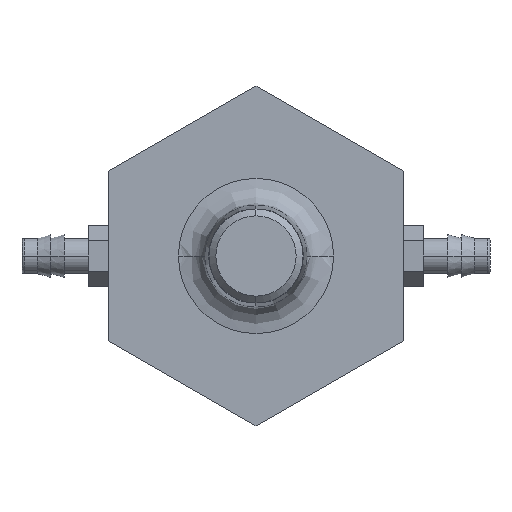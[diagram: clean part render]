
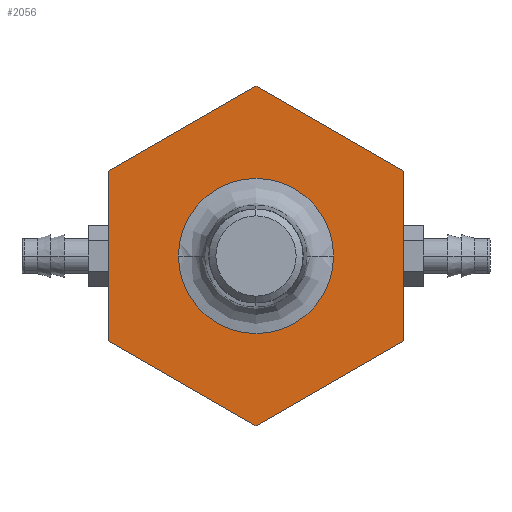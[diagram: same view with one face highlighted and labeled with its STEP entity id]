
A CAD part, left-side view. The second image highlights one B-rep face of the part: STEP entity #2056.
In plain terms, the highlighted planar face has unit normal (-1, 0, 0).
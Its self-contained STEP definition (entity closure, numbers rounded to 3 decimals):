
#1797=CARTESIAN_POINT('',(-2.75,0.363,0.));
#1798=VERTEX_POINT('',#1797);
#1808=CARTESIAN_POINT('',(-2.75,-0.363,0.));
#1809=VERTEX_POINT('',#1808);
#1810=CARTESIAN_POINT('',(-2.75,0.0,0.0));
#1811=DIRECTION('',(-1.0,0.0,0.0));
#1812=DIRECTION('',(0.0,0.0,1.0));
#1813=AXIS2_PLACEMENT_3D('',#1810,#1811,#1812);
#1814=CIRCLE('',#1813,0.363);
#1815=EDGE_CURVE('',#1798,#1809,#1814,.T.);
#1964=CARTESIAN_POINT('',(-2.75,0.0,0.363));
#1965=VERTEX_POINT('',#1964);
#1966=CARTESIAN_POINT('',(-2.75,0.0,0.0));
#1967=DIRECTION('',(-1.0,0.0,0.0));
#1968=DIRECTION('',(0.0,0.0,1.0));
#1969=AXIS2_PLACEMENT_3D('',#1966,#1967,#1968);
#1970=CIRCLE('',#1969,0.363);
#1971=EDGE_CURVE('',#1809,#1965,#1970,.T.);
#1973=CARTESIAN_POINT('',(-2.75,0.0,0.0));
#1974=DIRECTION('',(-1.0,0.0,0.0));
#1975=DIRECTION('',(0.0,0.0,1.0));
#1976=AXIS2_PLACEMENT_3D('',#1973,#1974,#1975);
#1977=CIRCLE('',#1976,0.363);
#1978=EDGE_CURVE('',#1965,#1798,#1977,.T.);
#1996=CARTESIAN_POINT('',(-2.75,0.,0.0));
#1997=DIRECTION('',(-1.0,0.0,0.0));
#1998=DIRECTION('',(0.0,0.0,1.0));
#1999=AXIS2_PLACEMENT_3D('',#1996,#1997,#1998);
#2000=PLANE('',#1999);
#2001=CARTESIAN_POINT('',(-2.75,0.688,0.397));
#2002=VERTEX_POINT('',#2001);
#2003=CARTESIAN_POINT('',(-2.75,0.0,0.794));
#2004=VERTEX_POINT('',#2003);
#2005=CARTESIAN_POINT('',(-2.75,0.688,0.397));
#2006=DIRECTION('',(0.0,-0.866,0.5));
#2007=VECTOR('',#2006,0.794);
#2008=LINE('',#2005,#2007);
#2009=EDGE_CURVE('',#2002,#2004,#2008,.T.);
#2010=ORIENTED_EDGE('',*,*,#2009,.F.);
#2011=CARTESIAN_POINT('',(-2.75,0.688,-0.397));
#2012=VERTEX_POINT('',#2011);
#2013=CARTESIAN_POINT('',(-2.75,0.688,-0.397));
#2014=DIRECTION('',(0.0,0.0,1.0));
#2015=VECTOR('',#2014,0.794);
#2016=LINE('',#2013,#2015);
#2017=EDGE_CURVE('',#2012,#2002,#2016,.T.);
#2018=ORIENTED_EDGE('',*,*,#2017,.F.);
#2019=CARTESIAN_POINT('',(-2.75,0.,-0.794));
#2020=VERTEX_POINT('',#2019);
#2021=CARTESIAN_POINT('',(-2.75,0.,-0.794));
#2022=DIRECTION('',(0.0,0.866,0.5));
#2023=VECTOR('',#2022,0.794);
#2024=LINE('',#2021,#2023);
#2025=EDGE_CURVE('',#2020,#2012,#2024,.T.);
#2026=ORIENTED_EDGE('',*,*,#2025,.F.);
#2027=CARTESIAN_POINT('',(-2.75,-0.688,-0.397));
#2028=VERTEX_POINT('',#2027);
#2029=CARTESIAN_POINT('',(-2.75,-0.688,-0.397));
#2030=DIRECTION('',(0.0,0.866,-0.5));
#2031=VECTOR('',#2030,0.794);
#2032=LINE('',#2029,#2031);
#2033=EDGE_CURVE('',#2028,#2020,#2032,.T.);
#2034=ORIENTED_EDGE('',*,*,#2033,.F.);
#2035=CARTESIAN_POINT('',(-2.75,-0.688,0.397));
#2036=VERTEX_POINT('',#2035);
#2037=CARTESIAN_POINT('',(-2.75,-0.688,0.397));
#2038=DIRECTION('',(0.0,0.0,-1.0));
#2039=VECTOR('',#2038,0.794);
#2040=LINE('',#2037,#2039);
#2041=EDGE_CURVE('',#2036,#2028,#2040,.T.);
#2042=ORIENTED_EDGE('',*,*,#2041,.F.);
#2043=CARTESIAN_POINT('',(-2.75,0.0,0.794));
#2044=DIRECTION('',(0.0,-0.866,-0.5));
#2045=VECTOR('',#2044,0.794);
#2046=LINE('',#2043,#2045);
#2047=EDGE_CURVE('',#2004,#2036,#2046,.T.);
#2048=ORIENTED_EDGE('',*,*,#2047,.F.);
#2049=EDGE_LOOP('',(#2010,#2018,#2026,#2034,#2042,#2048));
#2050=FACE_OUTER_BOUND('',#2049,.T.);
#2051=ORIENTED_EDGE('',*,*,#1978,.F.);
#2052=ORIENTED_EDGE('',*,*,#1971,.F.);
#2053=ORIENTED_EDGE('',*,*,#1815,.F.);
#2054=EDGE_LOOP('',(#2051,#2052,#2053));
#2055=FACE_BOUND('',#2054,.T.);
#2056=ADVANCED_FACE('',(#2050,#2055),#2000,.T.);
